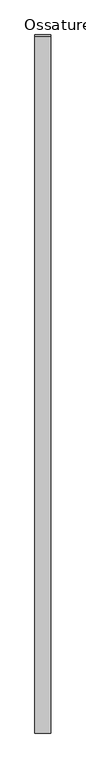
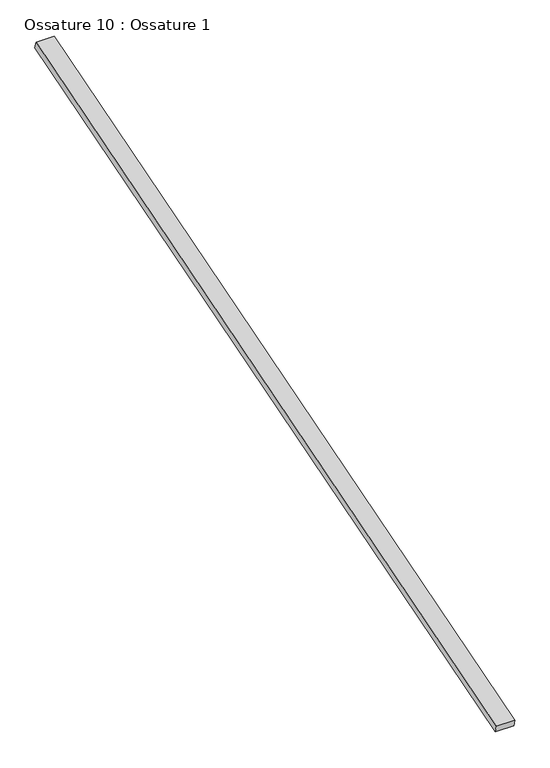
"""IFC4 building model written with IfcOpenShell, lengths in millimetres: beam geometry, Ossature 10 : Ossature 1."""

from ifc_helpers import new_model, si_unit, frame, origin, place, context, project, spatial, polyline, outline, extrude, source, transform, mapped, element, save


def ossature_10_ossature_1_d80670cc(model_context):
    return source(origin(), model_context, "Body", "SweptSolid", [
        extrude(outline(polyline([(0.0, 0.0), (0.0, -4543.0299679), (-100.0, -4543.0299679), (-100.0, 0.0), (0.0, 0.0)])), frame((2693.6466393, -833.3913565, 8153.6336115), z_axis=(0.0, -0.28734788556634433, 0.9578262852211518), x_axis=(-1.0, 0.0, 0.0)), (0.0, 0.0, 1.0), 40.0),
    ])


if __name__ == "__main__":
    model = new_model("IFC4")
    model_context = context("Model", 3, world=origin())
    ifc_project = project(units=[si_unit("LENGTHUNIT", "METRE", prefix="MILLI")], contexts=[model_context])
    site = spatial("IfcSite", under=ifc_project)
    building = spatial("IfcBuilding", under=site)
    placement = place(None, origin())
    ossature_10_ossature_1_shape = ossature_10_ossature_1_d80670cc(model_context)
    element("IfcBeam", 1, ObjectType="Ossature 10 : Ossature 1", at=placement, inside=building, context=model_context, shape_type="MappedRepresentation", body=[
        mapped(ossature_10_ossature_1_shape, transform((0.0, 0.0, 0.0), x_axis=(1.0, 0.0, 0.0), y_axis=(0.0, 1.0, 0.0), z_axis=(0.0, 0.0, 1.0))),
    ])
    save(model, "model.ifc")
